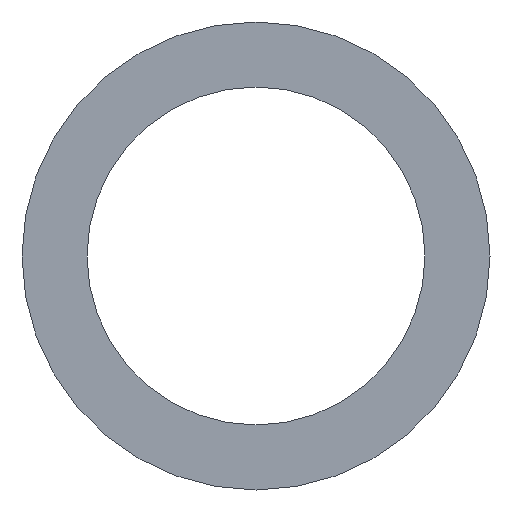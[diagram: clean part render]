
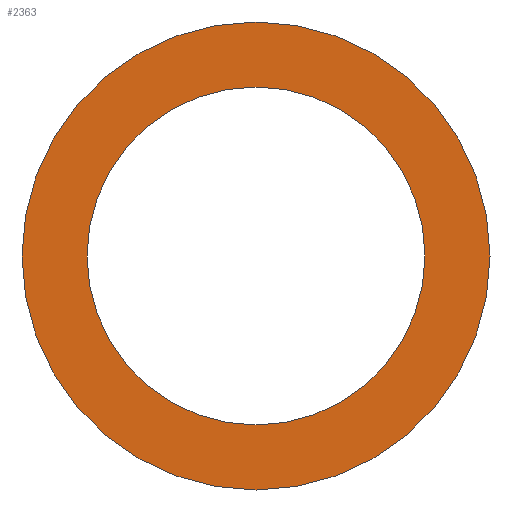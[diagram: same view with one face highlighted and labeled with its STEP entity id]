
A CAD part, front view. The second image highlights one B-rep face of the part: STEP entity #2363.
In plain terms, the highlighted planar face has unit normal (0, -1, 0).
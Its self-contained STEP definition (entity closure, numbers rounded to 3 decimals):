
#105 = VERTEX_POINT ( 'NONE', #4044 ) ;
#235 = CARTESIAN_POINT ( 'NONE',  ( 0., -26., 0. ) ) ;
#447 = CIRCLE ( 'NONE', #555, 65. ) ;
#506 = FACE_BOUND ( 'NONE', #3198, .T. ) ;
#555 = AXIS2_PLACEMENT_3D ( 'NONE', #4240, #5136, #1394 ) ;
#658 = CIRCLE ( 'NONE', #5300, 65. ) ;
#889 = DIRECTION ( 'NONE',  ( 0., 0., -1. ) ) ;
#1228 = CARTESIAN_POINT ( 'NONE',  ( 0., -26., 0. ) ) ;
#1341 = EDGE_CURVE ( 'NONE', #105, #1779, #658, .T. ) ;
#1356 = VERTEX_POINT ( 'NONE', #3129 ) ;
#1394 = DIRECTION ( 'NONE',  ( 0., 0., -1. ) ) ;
#1524 = DIRECTION ( 'NONE',  ( 0., -1., 0. ) ) ;
#1560 = ORIENTED_EDGE ( 'NONE', *, *, #4766, .T. ) ;
#1664 = DIRECTION ( 'NONE',  ( 0., -1., 0. ) ) ;
#1745 = CIRCLE ( 'NONE', #3443, 90. ) ;
#1779 = VERTEX_POINT ( 'NONE', #2335 ) ;
#1795 = DIRECTION ( 'NONE',  ( 0., 0., 1. ) ) ;
#2138 = CARTESIAN_POINT ( 'NONE',  ( 0., -26., 0. ) ) ;
#2228 = CARTESIAN_POINT ( 'NONE',  ( 0., -26., 65. ) ) ;
#2230 = EDGE_CURVE ( 'NONE', #4870, #1356, #1745, .T. ) ;
#2301 = EDGE_CURVE ( 'NONE', #1779, #105, #447, .T. ) ;
#2335 = CARTESIAN_POINT ( 'NONE',  ( 0., -26., 65. ) ) ;
#2363 = ADVANCED_FACE ( 'NONE', ( #506, #3884 ), #3490, .F. ) ;
#2594 = CIRCLE ( 'NONE', #3101, 90. ) ;
#2669 = DIRECTION ( 'NONE',  ( 0., 0., -1. ) ) ;
#2905 = EDGE_LOOP ( 'NONE', ( #3706, #1560 ) ) ;
#2957 = CARTESIAN_POINT ( 'NONE',  ( 0., -26., -90. ) ) ;
#3101 = AXIS2_PLACEMENT_3D ( 'NONE', #1228, #1664, #4574 ) ;
#3129 = CARTESIAN_POINT ( 'NONE',  ( 0., -26., 90. ) ) ;
#3198 = EDGE_LOOP ( 'NONE', ( #4037, #4795 ) ) ;
#3443 = AXIS2_PLACEMENT_3D ( 'NONE', #2138, #5025, #889 ) ;
#3490 = PLANE ( 'NONE',  #4618 ) ;
#3706 = ORIENTED_EDGE ( 'NONE', *, *, #2230, .T. ) ;
#3884 = FACE_OUTER_BOUND ( 'NONE', #2905, .T. ) ;
#4037 = ORIENTED_EDGE ( 'NONE', *, *, #1341, .F. ) ;
#4044 = CARTESIAN_POINT ( 'NONE',  ( 0., -26., -65. ) ) ;
#4240 = CARTESIAN_POINT ( 'NONE',  ( 0., -26., 0. ) ) ;
#4574 = DIRECTION ( 'NONE',  ( 0., 0., -1. ) ) ;
#4618 = AXIS2_PLACEMENT_3D ( 'NONE', #2228, #4690, #1795 ) ;
#4690 = DIRECTION ( 'NONE',  ( 0., 1., 0. ) ) ;
#4766 = EDGE_CURVE ( 'NONE', #1356, #4870, #2594, .T. ) ;
#4795 = ORIENTED_EDGE ( 'NONE', *, *, #2301, .F. ) ;
#4870 = VERTEX_POINT ( 'NONE', #2957 ) ;
#5025 = DIRECTION ( 'NONE',  ( 0., -1., 0. ) ) ;
#5136 = DIRECTION ( 'NONE',  ( 0., -1., 0. ) ) ;
#5300 = AXIS2_PLACEMENT_3D ( 'NONE', #235, #1524, #2669 ) ;
